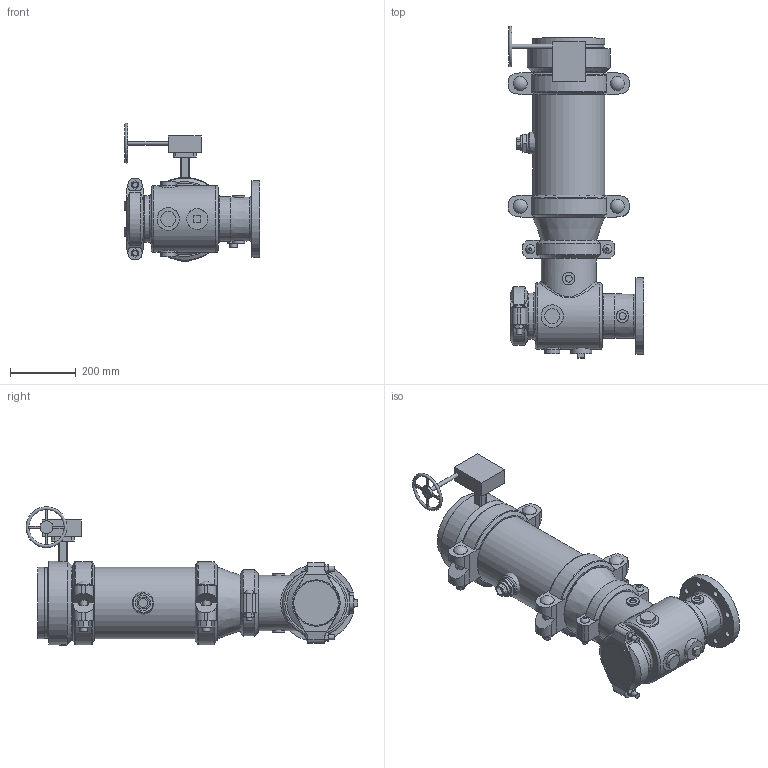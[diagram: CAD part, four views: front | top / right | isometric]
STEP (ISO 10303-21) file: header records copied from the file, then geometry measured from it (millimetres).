
FILE_DESCRIPTION(/* description */ ('VIC SVI PUMP DROP HORZ S/391 (OGSxFLG)','CAx-IF Rec.Pracs.---Representation and Presentation of Product Manufacturing Information (PMI)---4.0---2014-10-13'),/* implementation_level */ '2;1');
FILE_NAME(/* name */ 'C:\Users\Vjadhav\AppData\Roaming\Autodesk\ApplicationPlugins\Victaulic.Temp\A952\Victaulic_IPS_SVI_CL 150_Series 391 (OGSxFLG)_08.0x04.0 (200x100).stp',/* time_stamp */ '2021-04-09T17:54:29+05:00',/* author */ ('kkamble'),/* organization */ ('Victaulic'),/* preprocessor_version */ 'ST-DEVELOPER v17.2',/* originating_system */ 'Autodesk Inventor 2019',/* authorisation */ '');
FILE_SCHEMA (('AP242_MANAGED_MODEL_BASED_3D_ENGINEERING_MIM_LF { 1 0 10303 442 1 1 4 }'));
Length unit declared in the file: inch
Products named in the file (11): 391-08.0x04.0; 731D-06.0x04.0; 731D-06.0x04.0_1; 731D-06.0; 07-05.0; 050-08.0x06.0; 075-06.0; PIPE-08.0; 177N-08.0; 761-08.0; 923-04.0x0.75
Assembly tree (11 placements, depth 3):
  391-08.0x04.0
    731D-06.0x04.0
      731D-06.0x04.0_1
      731D-06.0
      07-05.0
    050-08.0x06.0
    075-06.0
    PIPE-08.0
    177N-08.0  x2
    761-08.0
    923-04.0x0.75
Bounding box: 412.98 x 1011.93 x 422.39 mm (x, y, z)
Volume: 14938030.5 mm3; surface area: 2266113.1 mm2
Topology: 10 solids, 15 shells, 577 faces, 1508 edges, 1022 vertices
Faces by surface type: plane 332, cylinder 193, cone 25, torus 18, sphere 6, bspline 3
Full cylindrical faces by diameter (mm): 8.636 x4, 12.446 x1, 12.7 x1, 15.875 x8, 17.424 x2, 19.05 x8, 21.336 x4, 22.225 x4, 22.86 x1, 25.4 x2, 26.67 x1, 38.1 x4, 39.125 x1, 42.85 x4, 45.72 x3, 45.974 x2, 55.118 x1, 55.626 x1, 63.5 x1, 101.6 x1, 104.902 x1, 112.776 x1, 121.412 x1, 134.95 x1, 136.144 x1, 137.033 x2, 141.3 x5, 146.558 x1, 154.051 x1, 161.925 x1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
Entity records: 17406 total; most frequent: CARTESIAN_POINT 4034, DIRECTION 2727, ORIENTED_EDGE 2520, EDGE_CURVE 1260, AXIS2_PLACEMENT_3D 1045, VERTEX_POINT 859, LINE 637, VECTOR 637
